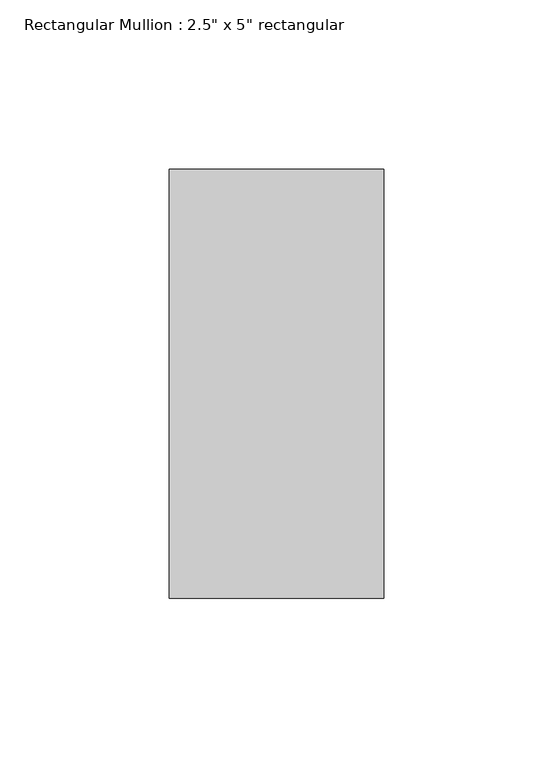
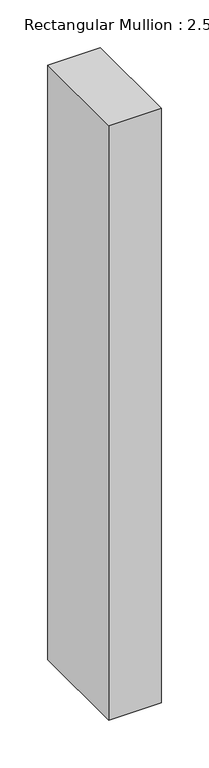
"""IFC4 building model written with IfcOpenShell, lengths in millimetres: member geometry."""

from ifc_helpers import new_model, si_unit, frame, origin, place, context, project, spatial, polyline, outline, extrude, source, transform, mapped, element, save


def member_f0d8dbf2(model_context):
    return source(origin(), model_context, "Body", "SweptSolid", [
        extrude(outline(polyline([(0.0, 63.5), (0.0, -63.5), (-63.5, -63.5), (-63.5, 63.5), (0.0, 63.5)])), frame((0.0, 0.0, -758.825), z_axis=(0.0, 0.0, 1.0), x_axis=(1.0, 0.0, 0.0)), (0.0, 0.0, 1.0), 758.825),
    ])


if __name__ == "__main__":
    model = new_model("IFC4")
    model_context = context("Model", 3, world=origin())
    ifc_project = project(units=[si_unit("LENGTHUNIT", "METRE", prefix="MILLI")], contexts=[model_context])
    site = spatial("IfcSite", under=ifc_project)
    building = spatial("IfcBuilding", under=site)
    placement = place(None, origin())
    member_shape = member_f0d8dbf2(model_context)
    element("IfcMember", 1, ObjectType="Rectangular Mullion : 2.5\" x 5\" rectangular", at=placement, inside=building, context=model_context, shape_type="MappedRepresentation", body=[
        mapped(member_shape, transform((0.0, 0.0, 0.0), x_axis=(1.0, 0.0, 0.0), y_axis=(0.0, 1.0, 0.0), z_axis=(0.0, 0.0, 1.0))),
    ])
    save(model, "model.ifc")
